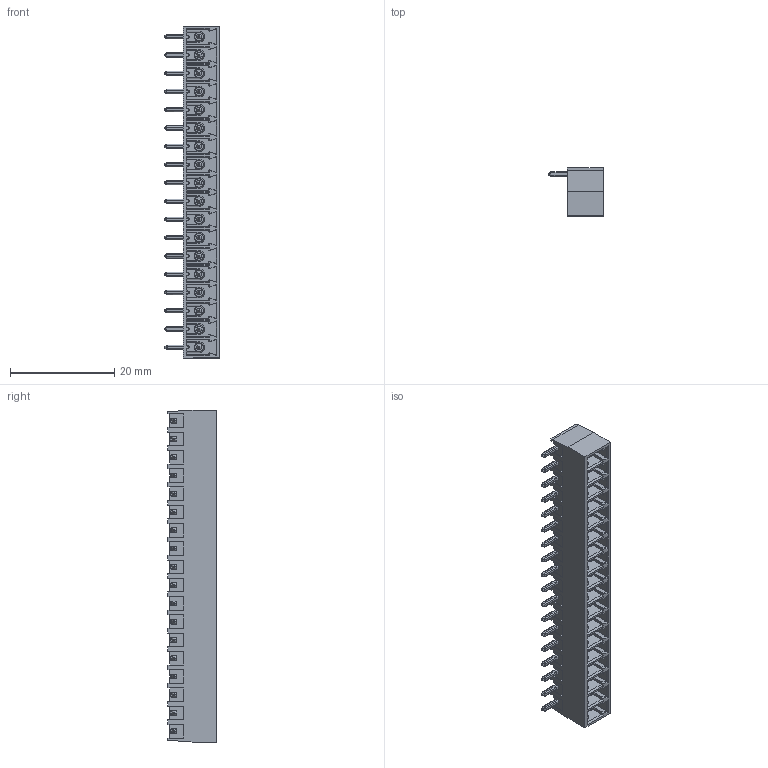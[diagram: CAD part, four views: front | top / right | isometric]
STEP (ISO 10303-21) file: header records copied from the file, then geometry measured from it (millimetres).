
FILE_DESCRIPTION (( 'STEP AP214' ), '1' );
FILE_NAME ('110-M-111-18.STEP', '2007-10-29T00:55:01', ( ' ' ), ( '' ), 'SwSTEP 2.0', 'SolidWorks 2007', '' );
FILE_SCHEMA (( 'AUTOMOTIVE_DESIGN' ));
Length unit declared in the file: millimetre
Products named in the file (1): 110-M-111-18
Bounding box: 10.5 x 9.2 x 63.6 mm (x, y, z)
Volume: 1678.6 mm3; surface area: 5860.1 mm2
Topology: 1 solids, 1 shells, 3422 faces, 9611 edges, 6169 vertices
Faces by surface type: plane 2330, cylinder 839, bspline 120, cone 111, sphere 22
Entity records: 117845 total; most frequent: CARTESIAN_POINT 38748, ORIENTED_EDGE 19178, DIRECTION 12291, EDGE_CURVE 9589, VERTEX_POINT 6169, VECTOR 5145, LINE 5145, B_SPLINE_CURVE_WITH_KNOTS 4070
